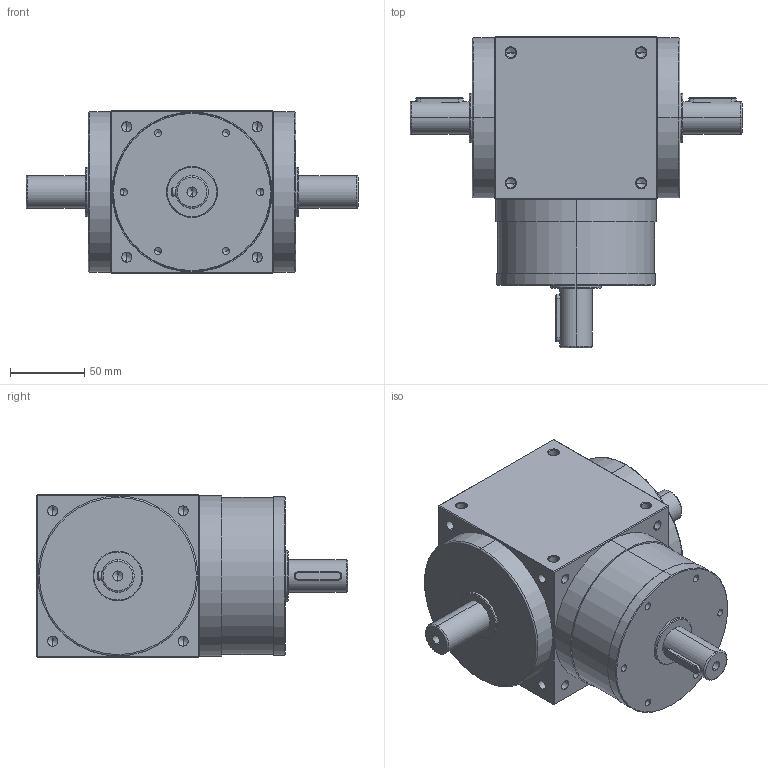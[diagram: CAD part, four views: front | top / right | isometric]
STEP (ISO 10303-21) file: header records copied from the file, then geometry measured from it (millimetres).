
FILE_DESCRIPTION (( 'STEP AP214' ), '1' );
FILE_NAME ('AT110-L-L1.STEP', '2019-09-27T09:00:08', ( 'User' ), ( 'Far123' ), 'SwSTEP 2.0', 'SolidWorks 2015', '' );
FILE_SCHEMA (( 'AUTOMOTIVE_DESIGN' ));
Length unit declared in the file: millimetre
Products named in the file (1): AT110-L-L1
Bounding box: 224 x 210 x 110 mm (x, y, z)
Volume: 2157712.6 mm3; surface area: 120878.7 mm2
Topology: 1 solids, 1 shells, 292 faces, 764 edges, 423 vertices
Faces by surface type: cylinder 142, cone 88, plane 52, torus 10
Entity records: 9724 total; most frequent: CARTESIAN_POINT 2080, ORIENTED_EDGE 1396, DIRECTION 1342, EDGE_CURVE 698, AXIS2_PLACEMENT_3D 517, VERTEX_POINT 423, EDGE_LOOP 339, VECTOR 308
